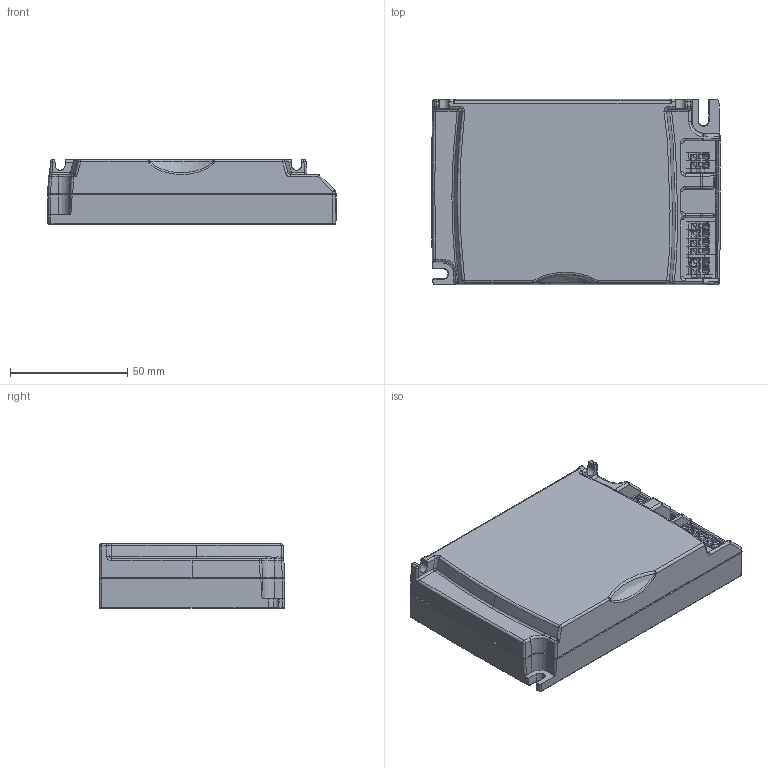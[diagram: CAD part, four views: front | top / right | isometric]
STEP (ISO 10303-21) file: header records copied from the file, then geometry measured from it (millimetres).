
FILE_DESCRIPTION (( 'STEP AP203' ), '1' );
FILE_NAME ('LC1x50-E-CC-700-1050.STEP', '2016-01-08T09:52:35', ( '' ), ( '' ), 'SwSTEP 2.0', 'SolidWorks 2014', '' );
FILE_SCHEMA (( 'CONFIG_CONTROL_DESIGN' ));
Length unit declared in the file: millimetre
Products named in the file (1): LC1x50-E-CC-700-1050
Bounding box: 122.99 x 79 x 27.5 mm (x, y, z)
Surface area: 42355.9 mm2 (no closed solid volume)
Topology: 0 solids, 14 shells, 560 faces, 1710 edges, 1127 vertices
Faces by surface type: plane 218, cylinder 174, bspline 136, cone 30, torus 2
Entity records: 28236 total; most frequent: CARTESIAN_POINT 15000, ORIENTED_EDGE 2911, DIRECTION 2195, EDGE_CURVE 1702, VERTEX_POINT 1127, LINE 935, VECTOR 935, AXIS2_PLACEMENT_3D 630
